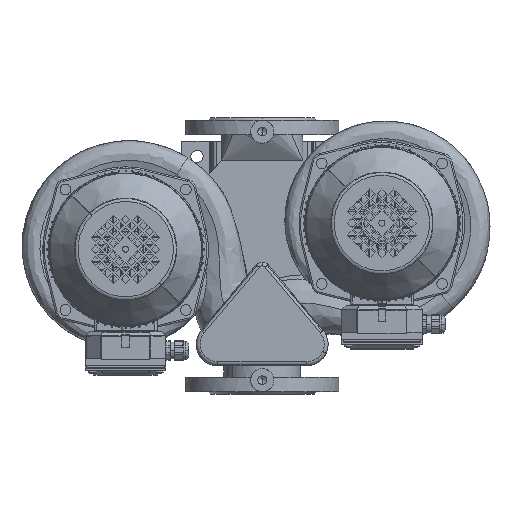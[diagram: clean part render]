
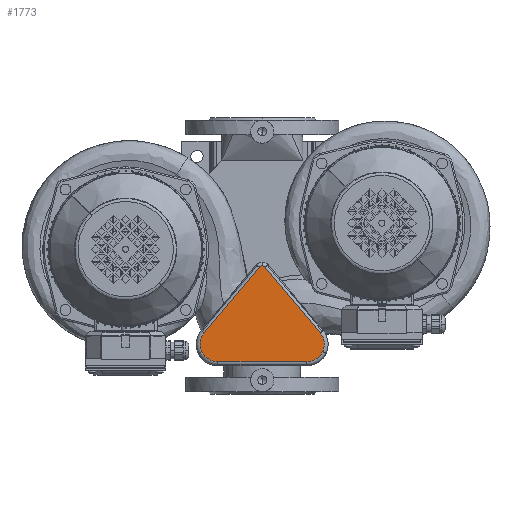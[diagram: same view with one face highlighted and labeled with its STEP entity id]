
A CAD part, top view. The second image highlights one B-rep face of the part: STEP entity #1773.
In plain terms, the highlighted planar face has unit normal (0, 0, 1).
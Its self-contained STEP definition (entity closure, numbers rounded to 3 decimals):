
#1773=ADVANCED_FACE('',(#3576),#3577,.T.);
#3576=FACE_OUTER_BOUND('',#7966,.T.);
#3577=PLANE('',#7967);
#7966=EDGE_LOOP('',(#18230,#18231,#18232,#18233,#18234,#18235,#18236,#18237,#18238));
#7967=AXIS2_PLACEMENT_3D('',#18239,#18240,#18241);
#18230=ORIENTED_EDGE('',*,*,#33270,.F.);
#18231=ORIENTED_EDGE('',*,*,#33264,.F.);
#18232=ORIENTED_EDGE('',*,*,#33278,.F.);
#18233=ORIENTED_EDGE('',*,*,#33260,.F.);
#18234=ORIENTED_EDGE('',*,*,#33254,.F.);
#18235=ORIENTED_EDGE('',*,*,#33284,.F.);
#18236=ORIENTED_EDGE('',*,*,#33250,.F.);
#18237=ORIENTED_EDGE('',*,*,#33244,.F.);
#18238=ORIENTED_EDGE('',*,*,#33289,.F.);
#18239=CARTESIAN_POINT('',(-57.895,143.0,50.0));
#18240=DIRECTION('',(0.0,0.0,1.0));
#18241=DIRECTION('',(1.0,0.0,0.0));
#33244=EDGE_CURVE('',#51402,#51405,#51406,.T.);
#33250=EDGE_CURVE('',#51405,#51415,#51416,.T.);
#33254=EDGE_CURVE('',#51419,#51422,#51423,.T.);
#33260=EDGE_CURVE('',#51422,#51432,#51433,.T.);
#33264=EDGE_CURVE('',#51436,#51439,#51440,.T.);
#33270=EDGE_CURVE('',#51439,#51449,#51450,.T.);
#33278=EDGE_CURVE('',#51432,#51436,#51460,.T.);
#33284=EDGE_CURVE('',#51415,#51419,#51467,.T.);
#33289=EDGE_CURVE('',#51449,#51402,#51472,.T.);
#51402=VERTEX_POINT('',#58775);
#51405=VERTEX_POINT('',#58778);
#51406=CIRCLE('',#58779,23.0);
#51415=VERTEX_POINT('',#58789);
#51416=LINE('',#58790,#58791);
#51419=VERTEX_POINT('',#58794);
#51422=VERTEX_POINT('',#58797);
#51423=CIRCLE('',#58798,5.0);
#51432=VERTEX_POINT('',#58808);
#51433=LINE('',#58809,#58810);
#51436=VERTEX_POINT('',#58813);
#51439=VERTEX_POINT('',#58816);
#51440=CIRCLE('',#58817,23.0);
#51449=VERTEX_POINT('',#58827);
#51450=LINE('',#58828,#58829);
#51460=CIRCLE('',#58840,23.0);
#51467=CIRCLE('',#58848,5.0);
#51472=CIRCLE('',#58854,23.0);
#58775=CARTESIAN_POINT('',(78.74,124.72,50.0));
#58778=CARTESIAN_POINT('',(75.514,100.216,50.0));
#58779=AXIS2_PLACEMENT_3D('',#71170,#71171,#71172);
#58789=CARTESIAN_POINT('',(3.83,14.786,50.0));
#58790=CARTESIAN_POINT('',(58.487,79.924,50.0));
#58791=VECTOR('',#71183,1.);
#58794=CARTESIAN_POINT('',(0.,13.0,50.0));
#58797=CARTESIAN_POINT('',(-3.83,14.786,50.0));
#58798=AXIS2_PLACEMENT_3D('',#71190,#71191,#71192);
#58808=CARTESIAN_POINT('',(-75.514,100.216,50.0));
#58809=CARTESIAN_POINT('',(-46.566,65.717,50.0));
#58810=VECTOR('',#71203,1.0);
#58813=CARTESIAN_POINT('',(-78.74,124.72,50.0));
#58816=CARTESIAN_POINT('',(-57.895,138.0,50.0));
#58817=AXIS2_PLACEMENT_3D('',#71210,#71211,#71212);
#58827=CARTESIAN_POINT('',(57.895,138.0,50.0));
#58828=CARTESIAN_POINT('',(-57.895,138.0,50.0));
#58829=VECTOR('',#71223,1.0);
#58840=AXIS2_PLACEMENT_3D('',#71237,#71238,#71239);
#58848=AXIS2_PLACEMENT_3D('',#71247,#71248,#71249);
#58854=AXIS2_PLACEMENT_3D('',#71254,#71255,#71256);
#71170=CARTESIAN_POINT('',(57.895,115.0,50.0));
#71171=DIRECTION('',(0.0,0.0,-1.0));
#71172=DIRECTION('',(0.906,0.423,0.0));
#71183=DIRECTION('',(-0.643,-0.766,0.0));
#71190=CARTESIAN_POINT('',(0.0,18.0,50.0));
#71191=DIRECTION('',(0.0,0.0,-1.0));
#71192=DIRECTION('',(0.,-1.0,0.0));
#71203=DIRECTION('',(-0.643,0.766,0.0));
#71210=CARTESIAN_POINT('',(-57.895,115.0,50.0));
#71211=DIRECTION('',(0.0,0.0,-1.0));
#71212=DIRECTION('',(-0.906,0.423,0.0));
#71223=DIRECTION('',(1.0,0.0,0.0));
#71237=CARTESIAN_POINT('',(-57.895,115.0,50.0));
#71238=DIRECTION('',(0.0,0.0,-1.0));
#71239=DIRECTION('',(-0.906,0.423,0.0));
#71247=CARTESIAN_POINT('',(0.0,18.0,50.0));
#71248=DIRECTION('',(0.0,0.0,-1.0));
#71249=DIRECTION('',(0.,-1.0,0.0));
#71254=CARTESIAN_POINT('',(57.895,115.0,50.0));
#71255=DIRECTION('',(0.0,0.0,-1.0));
#71256=DIRECTION('',(0.906,0.423,0.0));
